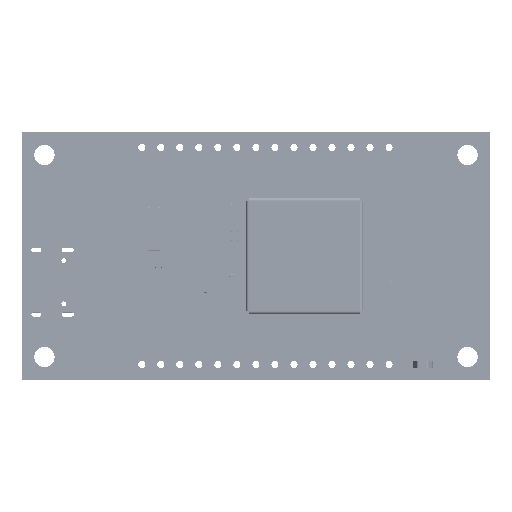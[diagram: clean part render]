
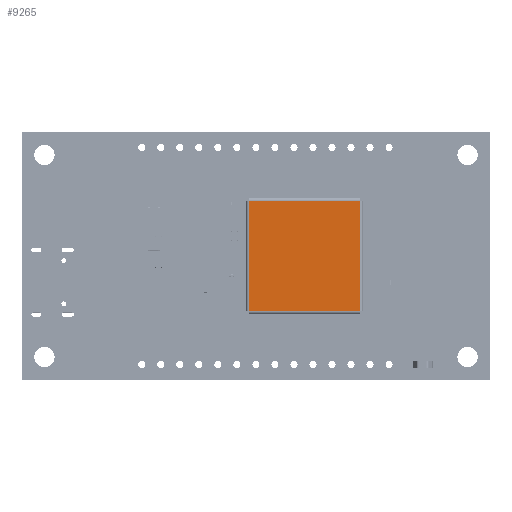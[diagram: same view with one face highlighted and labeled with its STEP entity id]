
A CAD part, top view. The second image highlights one B-rep face of the part: STEP entity #9265.
In plain terms, the highlighted planar face has unit normal (0, 0, 1).
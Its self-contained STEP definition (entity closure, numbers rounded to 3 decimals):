
#9265 = ADVANCED_FACE('',(#9266),#9300,.T.);
#9266 = FACE_BOUND('',#9267,.T.);
#9267 = EDGE_LOOP('',(#9268,#9278,#9286,#9294));
#9268 = ORIENTED_EDGE('',*,*,#9269,.T.);
#9269 = EDGE_CURVE('',#9270,#9272,#9274,.T.);
#9270 = VERTEX_POINT('',#9271);
#9271 = CARTESIAN_POINT('',(7.4,7.4,2.4));
#9272 = VERTEX_POINT('',#9273);
#9273 = CARTESIAN_POINT('',(-7.4,7.4,2.4));
#9274 = LINE('',#9275,#9276);
#9275 = CARTESIAN_POINT('',(0.,7.4,2.4));
#9276 = VECTOR('',#9277,1.);
#9277 = DIRECTION('',(-1.,0.,0.));
#9278 = ORIENTED_EDGE('',*,*,#9279,.T.);
#9279 = EDGE_CURVE('',#9272,#9280,#9282,.T.);
#9280 = VERTEX_POINT('',#9281);
#9281 = CARTESIAN_POINT('',(-7.4,-7.4,2.4));
#9282 = LINE('',#9283,#9284);
#9283 = CARTESIAN_POINT('',(-7.4,0.,2.4));
#9284 = VECTOR('',#9285,1.);
#9285 = DIRECTION('',(0.,-1.,0.));
#9286 = ORIENTED_EDGE('',*,*,#9287,.T.);
#9287 = EDGE_CURVE('',#9280,#9288,#9290,.T.);
#9288 = VERTEX_POINT('',#9289);
#9289 = CARTESIAN_POINT('',(7.4,-7.4,2.4));
#9290 = LINE('',#9291,#9292);
#9291 = CARTESIAN_POINT('',(0.,-7.4,2.4));
#9292 = VECTOR('',#9293,1.);
#9293 = DIRECTION('',(1.,0.,0.));
#9294 = ORIENTED_EDGE('',*,*,#9295,.T.);
#9295 = EDGE_CURVE('',#9288,#9270,#9296,.T.);
#9296 = LINE('',#9297,#9298);
#9297 = CARTESIAN_POINT('',(7.4,0.,2.4));
#9298 = VECTOR('',#9299,1.);
#9299 = DIRECTION('',(0.,1.,0.));
#9300 = PLANE('',#9301);
#9301 = AXIS2_PLACEMENT_3D('',#9302,#9303,#9304);
#9302 = CARTESIAN_POINT('',(0.,0.,2.4));
#9303 = DIRECTION('',(0.,0.,1.));
#9304 = DIRECTION('',(1.,0.,-0.));
